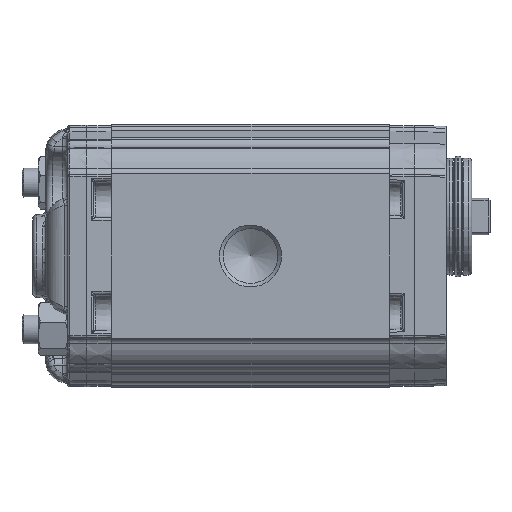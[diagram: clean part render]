
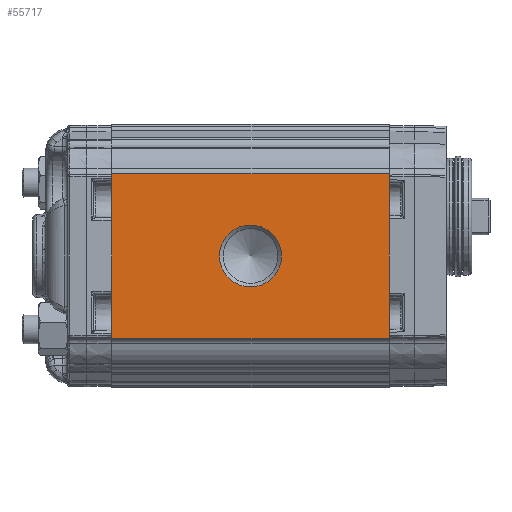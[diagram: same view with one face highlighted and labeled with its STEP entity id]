
A CAD part, left-side view. The second image highlights one B-rep face of the part: STEP entity #55717.
In plain terms, the highlighted planar face has unit normal (-1, 0, 0).
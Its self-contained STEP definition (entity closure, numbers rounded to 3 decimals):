
#3275=PLANE('',#59159);
#4203=LINE('',#97538,#6101);
#4213=LINE('',#97639,#6111);
#4232=LINE('',#97687,#6130);
#4233=LINE('',#97689,#6131);
#6101=VECTOR('',#65955,1000.);
#6111=VECTOR('',#66047,1000.);
#6130=VECTOR('',#66102,1000.);
#6131=VECTOR('',#66105,1000.);
#11795=ORIENTED_EDGE('',*,*,#21207,.F.);
#11796=ORIENTED_EDGE('',*,*,#21305,.T.);
#11797=ORIENTED_EDGE('',*,*,#21277,.T.);
#11798=ORIENTED_EDGE('',*,*,#21306,.T.);
#11799=ORIENTED_EDGE('',*,*,#21227,.F.);
#21207=EDGE_CURVE('',#26232,#26232,#29360,.F.);
#21227=EDGE_CURVE('',#26253,#26254,#4203,.T.);
#21277=EDGE_CURVE('',#26304,#26303,#4213,.T.);
#21305=EDGE_CURVE('',#26253,#26304,#4232,.T.);
#21306=EDGE_CURVE('',#26303,#26254,#4233,.F.);
#26232=VERTEX_POINT('',#97494);
#26253=VERTEX_POINT('',#97537);
#26254=VERTEX_POINT('',#97539);
#26303=VERTEX_POINT('',#97638);
#26304=VERTEX_POINT('',#97640);
#29360=CIRCLE('',#59063,8.475);
#31726=EDGE_LOOP('',(#11795));
#31727=EDGE_LOOP('',(#11796,#11797,#11798,#11799));
#34515=FACE_BOUND('',#31726,.T.);
#34516=FACE_BOUND('',#31727,.T.);
#55717=ADVANCED_FACE('',(#34515,#34516),#3275,.T.);
#59063=AXIS2_PLACEMENT_3D('',#97493,#65912,#65913);
#59159=AXIS2_PLACEMENT_3D('',#97716,#66148,#66149);
#65912=DIRECTION('',(1.,0.,0.));
#65913=DIRECTION('',(0.,0.,-1.));
#65955=DIRECTION('',(0.,0.,1.));
#66047=DIRECTION('',(0.,0.,1.));
#66102=DIRECTION('',(0.,-1.,0.));
#66105=DIRECTION('',(0.,-1.,0.));
#66148=DIRECTION('',(-1.,0.,0.));
#66149=DIRECTION('',(0.,0.,1.));
#97493=CARTESIAN_POINT('',(-33.,38.,0.));
#97494=CARTESIAN_POINT('',(-33.,38.,-8.475));
#97537=CARTESIAN_POINT('',(-33.,76.,-22.5));
#97538=CARTESIAN_POINT('',(-33.,76.,-21.711));
#97539=CARTESIAN_POINT('',(-33.,76.,22.5));
#97638=CARTESIAN_POINT('',(-33.,0.,22.5));
#97639=CARTESIAN_POINT('',(-33.,0.,-21.711));
#97640=CARTESIAN_POINT('',(-33.,0.,-22.5));
#97687=CARTESIAN_POINT('',(-33.,76.,-22.5));
#97689=CARTESIAN_POINT('',(-33.,76.,22.5));
#97716=CARTESIAN_POINT('',(-33.,140.14,48.138));
